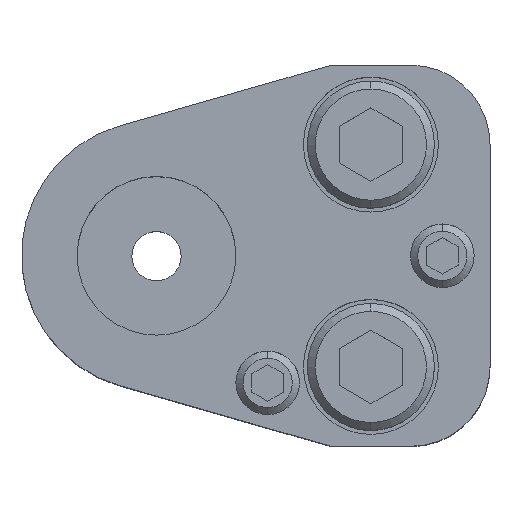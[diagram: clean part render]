
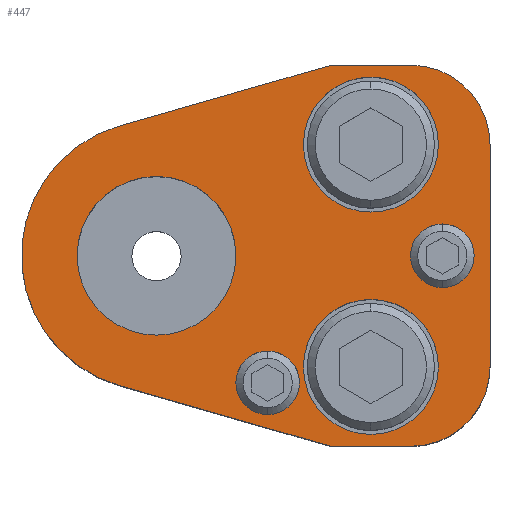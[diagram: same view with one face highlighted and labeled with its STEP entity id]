
A CAD part, top view. The second image highlights one B-rep face of the part: STEP entity #447.
In plain terms, the highlighted planar face has unit normal (0, 0, 1).
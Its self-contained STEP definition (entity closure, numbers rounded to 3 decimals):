
#206=FACE_BOUND('',#807,.T.);
#207=FACE_BOUND('',#808,.T.);
#208=FACE_BOUND('',#809,.T.);
#209=FACE_BOUND('',#810,.T.);
#210=FACE_BOUND('',#811,.T.);
#211=FACE_BOUND('',#812,.T.);
#269=CIRCLE('',#2664,10.);
#271=CIRCLE('',#2668,10.);
#274=CIRCLE('',#2673,17.);
#275=CIRCLE('',#2678,4.);
#277=CIRCLE('',#2681,4.);
#279=CIRCLE('',#2684,4.);
#281=CIRCLE('',#2687,4.);
#291=CIRCLE('',#2702,8.5);
#292=CIRCLE('',#2703,8.5);
#293=CIRCLE('',#2704,8.5);
#294=CIRCLE('',#2705,8.5);
#295=CIRCLE('',#2706,10.);
#296=CIRCLE('',#2707,10.);
#447=ADVANCED_FACE('',(#206,#207,#208,#209,#210,#211),#578,.T.);
#578=PLANE('',#2708);
#807=EDGE_LOOP('',(#1148,#1149,#1150,#1151,#1152,#1153,#1154,#1155));
#808=EDGE_LOOP('',(#1156,#1157));
#809=EDGE_LOOP('',(#1158,#1159));
#810=EDGE_LOOP('',(#1160,#1161));
#811=EDGE_LOOP('',(#1162,#1163));
#812=EDGE_LOOP('',(#1164,#1165));
#1148=ORIENTED_EDGE('',*,*,#1952,.T.);
#1149=ORIENTED_EDGE('',*,*,#1961,.T.);
#1150=ORIENTED_EDGE('',*,*,#1935,.T.);
#1151=ORIENTED_EDGE('',*,*,#1939,.T.);
#1152=ORIENTED_EDGE('',*,*,#1942,.T.);
#1153=ORIENTED_EDGE('',*,*,#1945,.T.);
#1154=ORIENTED_EDGE('',*,*,#1948,.T.);
#1155=ORIENTED_EDGE('',*,*,#1956,.T.);
#1156=ORIENTED_EDGE('',*,*,#1991,.F.);
#1157=ORIENTED_EDGE('',*,*,#1992,.F.);
#1158=ORIENTED_EDGE('',*,*,#1993,.F.);
#1159=ORIENTED_EDGE('',*,*,#1994,.F.);
#1160=ORIENTED_EDGE('',*,*,#1977,.F.);
#1161=ORIENTED_EDGE('',*,*,#1973,.F.);
#1162=ORIENTED_EDGE('',*,*,#1971,.F.);
#1163=ORIENTED_EDGE('',*,*,#1967,.F.);
#1164=ORIENTED_EDGE('',*,*,#1995,.T.);
#1165=ORIENTED_EDGE('',*,*,#1996,.T.);
#1686=VERTEX_POINT('',#3857);
#1687=VERTEX_POINT('',#3859);
#1690=VERTEX_POINT('',#3866);
#1692=VERTEX_POINT('',#3872);
#1694=VERTEX_POINT('',#3878);
#1696=VERTEX_POINT('',#3884);
#1699=VERTEX_POINT('',#3892);
#1700=VERTEX_POINT('',#3894);
#1708=VERTEX_POINT('',#3924);
#1709=VERTEX_POINT('',#3925);
#1712=VERTEX_POINT('',#3936);
#1713=VERTEX_POINT('',#3937);
#1724=VERTEX_POINT('',#3972);
#1725=VERTEX_POINT('',#3973);
#1726=VERTEX_POINT('',#3976);
#1727=VERTEX_POINT('',#3977);
#1728=VERTEX_POINT('',#3980);
#1729=VERTEX_POINT('',#3981);
#1935=EDGE_CURVE('',#1687,#1686,#2269,.T.);
#1939=EDGE_CURVE('',#1686,#1690,#269,.T.);
#1942=EDGE_CURVE('',#1690,#1692,#2274,.T.);
#1945=EDGE_CURVE('',#1692,#1694,#271,.T.);
#1948=EDGE_CURVE('',#1694,#1696,#2278,.T.);
#1952=EDGE_CURVE('',#1700,#1699,#274,.T.);
#1956=EDGE_CURVE('',#1696,#1700,#2284,.T.);
#1961=EDGE_CURVE('',#1699,#1687,#2289,.T.);
#1967=EDGE_CURVE('',#1708,#1709,#275,.T.);
#1971=EDGE_CURVE('',#1709,#1708,#277,.T.);
#1973=EDGE_CURVE('',#1712,#1713,#279,.T.);
#1977=EDGE_CURVE('',#1713,#1712,#281,.T.);
#1991=EDGE_CURVE('',#1724,#1725,#291,.T.);
#1992=EDGE_CURVE('',#1725,#1724,#292,.T.);
#1993=EDGE_CURVE('',#1726,#1727,#293,.T.);
#1994=EDGE_CURVE('',#1727,#1726,#294,.T.);
#1995=EDGE_CURVE('',#1728,#1729,#295,.T.);
#1996=EDGE_CURVE('',#1729,#1728,#296,.T.);
#2269=LINE('',#3858,#2467);
#2274=LINE('',#3873,#2472);
#2278=LINE('',#3885,#2476);
#2284=LINE('',#3901,#2482);
#2289=LINE('',#3909,#2487);
#2467=VECTOR('',#3061,1.);
#2472=VECTOR('',#3074,1.);
#2476=VECTOR('',#3086,1.);
#2482=VECTOR('',#3100,1.);
#2487=VECTOR('',#3107,1.);
#2664=AXIS2_PLACEMENT_3D('',#3867,#3067,#3068);
#2668=AXIS2_PLACEMENT_3D('',#3879,#3079,#3080);
#2673=AXIS2_PLACEMENT_3D('',#3893,#3093,#3094);
#2678=AXIS2_PLACEMENT_3D('',#3923,#3116,#3117);
#2681=AXIS2_PLACEMENT_3D('',#3932,#3124,#3125);
#2684=AXIS2_PLACEMENT_3D('',#3935,#3130,#3131);
#2687=AXIS2_PLACEMENT_3D('',#3944,#3138,#3139);
#2702=AXIS2_PLACEMENT_3D('',#3971,#3172,#3173);
#2703=AXIS2_PLACEMENT_3D('',#3974,#3174,#3175);
#2704=AXIS2_PLACEMENT_3D('',#3975,#3176,#3177);
#2705=AXIS2_PLACEMENT_3D('',#3978,#3178,#3179);
#2706=AXIS2_PLACEMENT_3D('',#3979,#3180,#3181);
#2707=AXIS2_PLACEMENT_3D('',#3982,#3182,#3183);
#2708=AXIS2_PLACEMENT_3D('',#3983,#3184,#3185);
#3061=DIRECTION('',(1.,0.,0.));
#3067=DIRECTION('',(0.,0.,1.));
#3068=DIRECTION('',(-0.707,0.707,0.));
#3074=DIRECTION('',(0.,1.,0.));
#3079=DIRECTION('',(0.,0.,1.));
#3080=DIRECTION('',(-0.707,-0.707,0.));
#3086=DIRECTION('',(-1.,0.,0.));
#3093=DIRECTION('',(0.,0.,1.));
#3094=DIRECTION('',(0.,1.,0.));
#3100=DIRECTION('',(-0.961,-0.276,0.));
#3107=DIRECTION('',(0.961,-0.276,0.));
#3116=DIRECTION('',(0.,0.,1.));
#3117=DIRECTION('',(1.,0.,0.));
#3124=DIRECTION('',(0.,0.,1.));
#3125=DIRECTION('',(-1.,0.,0.));
#3130=DIRECTION('',(0.,0.,1.));
#3131=DIRECTION('',(1.,0.,0.));
#3138=DIRECTION('',(0.,0.,1.));
#3139=DIRECTION('',(-1.,0.,0.));
#3172=DIRECTION('',(0.,0.,1.));
#3173=DIRECTION('',(1.,0.,0.));
#3174=DIRECTION('',(0.,0.,1.));
#3175=DIRECTION('',(-1.,0.,0.));
#3176=DIRECTION('',(0.,0.,1.));
#3177=DIRECTION('',(1.,0.,0.));
#3178=DIRECTION('',(0.,0.,1.));
#3179=DIRECTION('',(-1.,0.,0.));
#3180=DIRECTION('',(0.,0.,-1.));
#3181=DIRECTION('',(-1.,0.,0.));
#3182=DIRECTION('',(0.,0.,-1.));
#3183=DIRECTION('',(1.,0.,0.));
#3184=DIRECTION('',(0.,0.,1.));
#3185=DIRECTION('',(0.961,0.276,0.));
#3857=CARTESIAN_POINT('',(32.,-24.,35.));
#3858=CARTESIAN_POINT('',(22.,-24.,35.));
#3859=CARTESIAN_POINT('',(22.,-24.,35.));
#3866=CARTESIAN_POINT('',(42.,-14.,35.));
#3867=CARTESIAN_POINT('',(32.,-14.,35.));
#3872=CARTESIAN_POINT('',(42.,14.,35.));
#3873=CARTESIAN_POINT('',(42.,-14.,35.));
#3878=CARTESIAN_POINT('',(32.,24.,35.));
#3879=CARTESIAN_POINT('',(32.,14.,35.));
#3884=CARTESIAN_POINT('',(22.,24.,35.));
#3885=CARTESIAN_POINT('',(22.,24.,35.));
#3892=CARTESIAN_POINT('',(-4.69,-16.34,35.));
#3893=CARTESIAN_POINT('',(0.,0.,35.));
#3894=CARTESIAN_POINT('',(-4.69,16.34,35.));
#3901=CARTESIAN_POINT('',(22.,24.,35.));
#3909=CARTESIAN_POINT('',(22.,-24.,35.));
#3923=CARTESIAN_POINT('',(14.,-16.,35.));
#3924=CARTESIAN_POINT('',(14.,-12.,35.));
#3925=CARTESIAN_POINT('',(14.,-20.,35.));
#3932=CARTESIAN_POINT('',(14.,-16.,35.));
#3935=CARTESIAN_POINT('',(36.,0.,35.));
#3936=CARTESIAN_POINT('',(36.,4.,35.));
#3937=CARTESIAN_POINT('',(36.,-4.,35.));
#3944=CARTESIAN_POINT('',(36.,0.,35.));
#3971=CARTESIAN_POINT('',(27.,-14.,35.));
#3972=CARTESIAN_POINT('',(27.,-5.5,35.));
#3973=CARTESIAN_POINT('',(27.,-22.5,35.));
#3974=CARTESIAN_POINT('',(27.,-14.,35.));
#3975=CARTESIAN_POINT('',(27.,14.,35.));
#3976=CARTESIAN_POINT('',(27.,22.5,35.));
#3977=CARTESIAN_POINT('',(27.,5.5,35.));
#3978=CARTESIAN_POINT('',(27.,14.,35.));
#3979=CARTESIAN_POINT('',(0.,0.,35.));
#3980=CARTESIAN_POINT('',(0.,10.,35.));
#3981=CARTESIAN_POINT('',(0.,-10.,35.));
#3982=CARTESIAN_POINT('',(0.,0.,35.));
#3983=CARTESIAN_POINT('',(-4.69,16.34,35.));
